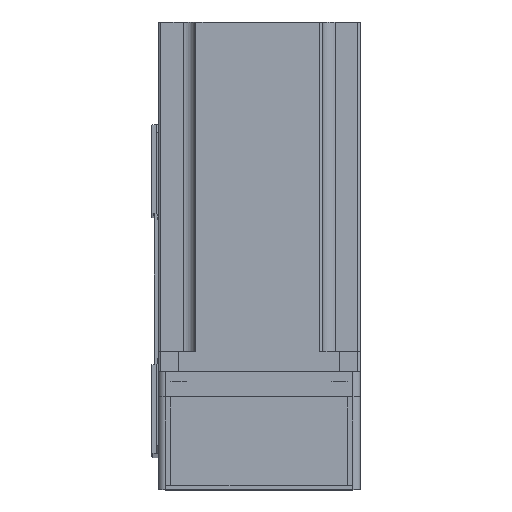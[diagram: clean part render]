
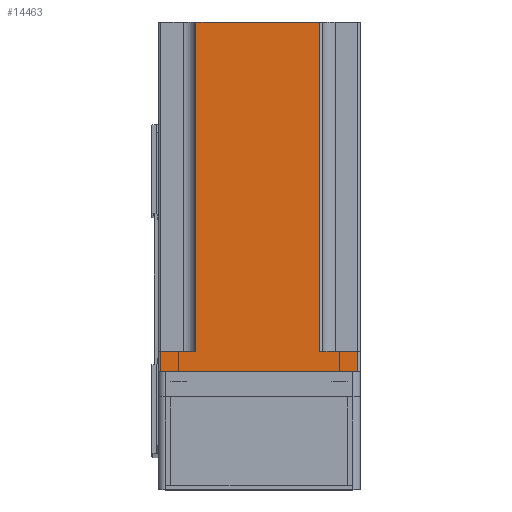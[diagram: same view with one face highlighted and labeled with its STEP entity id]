
A CAD part, top view. The second image highlights one B-rep face of the part: STEP entity #14463.
In plain terms, the highlighted planar face has unit normal (0, 0, 1) as drawn and (-1, 0, 0) by its records, which use the part's own axes.
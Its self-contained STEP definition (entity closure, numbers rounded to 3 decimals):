
#366 = CARTESIAN_POINT ( 'NONE',  ( -40., -39., 8. ) ) ;
#1369 = EDGE_CURVE ( 'NONE', #42244, #22218, #40929, .T. ) ;
#1792 = DIRECTION ( 'NONE',  ( 0., -1., 0. ) ) ;
#1962 = LINE ( 'NONE', #42863, #18874 ) ;
#2113 = DIRECTION ( 'NONE',  ( 0., -1., 0. ) ) ;
#2497 = DIRECTION ( 'NONE',  ( 0., 0., 1. ) ) ;
#3244 = EDGE_LOOP ( 'NONE', ( #18617, #25993, #48283, #39587, #11642, #5808, #7015, #12656 ) ) ;
#4318 = VECTOR ( 'NONE', #8332, 1000. ) ;
#4391 = VERTEX_POINT ( 'NONE', #33531 ) ;
#5808 = ORIENTED_EDGE ( 'NONE', *, *, #29301, .T. ) ;
#5882 = LINE ( 'NONE', #14709, #45887 ) ;
#7015 = ORIENTED_EDGE ( 'NONE', *, *, #1369, .T. ) ;
#7234 = LINE ( 'NONE', #25920, #35697 ) ;
#8332 = DIRECTION ( 'NONE',  ( 0., 0., -1. ) ) ;
#9759 = DIRECTION ( 'NONE',  ( 0., -1., 0. ) ) ;
#10126 = DIRECTION ( 'NONE',  ( 1., 0., 0. ) ) ;
#10890 = VERTEX_POINT ( 'NONE', #26378 ) ;
#11642 = ORIENTED_EDGE ( 'NONE', *, *, #39262, .T. ) ;
#12656 = ORIENTED_EDGE ( 'NONE', *, *, #46635, .T. ) ;
#14463 = ADVANCED_FACE ( 'NONE', ( #46347 ), #40953, .F. ) ;
#14619 = LINE ( 'NONE', #38821, #4318 ) ;
#14709 = CARTESIAN_POINT ( 'NONE',  ( -40., 40., 8. ) ) ;
#16751 = EDGE_CURVE ( 'NONE', #49992, #16791, #7234, .T. ) ;
#16791 = VERTEX_POINT ( 'NONE', #26091 ) ;
#18617 = ORIENTED_EDGE ( 'NONE', *, *, #22308, .F. ) ;
#18874 = VECTOR ( 'NONE', #35050, 1000. ) ;
#19162 = AXIS2_PLACEMENT_3D ( 'NONE', #33274, #10126, #37179 ) ;
#22218 = VERTEX_POINT ( 'NONE', #24950 ) ;
#22308 = EDGE_CURVE ( 'NONE', #40290, #27152, #44125, .T. ) ;
#24950 = CARTESIAN_POINT ( 'NONE',  ( -40., -39., 0. ) ) ;
#24982 = CARTESIAN_POINT ( 'NONE',  ( -40., -40., 0. ) ) ;
#25920 = CARTESIAN_POINT ( 'NONE',  ( -40., 25., 8. ) ) ;
#25993 = ORIENTED_EDGE ( 'NONE', *, *, #44623, .T. ) ;
#26091 = CARTESIAN_POINT ( 'NONE',  ( -40., 25., 138.3 ) ) ;
#26378 = CARTESIAN_POINT ( 'NONE',  ( -40., 39., 8. ) ) ;
#27152 = VERTEX_POINT ( 'NONE', #366 ) ;
#29033 = CARTESIAN_POINT ( 'NONE',  ( -40., -40., 8. ) ) ;
#29301 = EDGE_CURVE ( 'NONE', #10890, #42244, #14619, .T. ) ;
#29576 = CARTESIAN_POINT ( 'NONE',  ( -40., -39., 138.3 ) ) ;
#29799 = DIRECTION ( 'NONE',  ( 0., 0., 1. ) ) ;
#30527 = VECTOR ( 'NONE', #1792, 1000. ) ;
#31924 = LINE ( 'NONE', #29576, #42277 ) ;
#33274 = CARTESIAN_POINT ( 'NONE',  ( -40., -40., 138.3 ) ) ;
#33531 = CARTESIAN_POINT ( 'NONE',  ( -40., -24., 138.3 ) ) ;
#33745 = VECTOR ( 'NONE', #2113, 1000. ) ;
#34045 = CARTESIAN_POINT ( 'NONE',  ( -40., 39., 0. ) ) ;
#35050 = DIRECTION ( 'NONE',  ( 0., 0., 1. ) ) ;
#35697 = VECTOR ( 'NONE', #29799, 1000. ) ;
#36095 = VECTOR ( 'NONE', #9759, 1000. ) ;
#36819 = CARTESIAN_POINT ( 'NONE',  ( -40., -40., 138.3 ) ) ;
#37179 = DIRECTION ( 'NONE',  ( 0., 0., -1. ) ) ;
#37327 = LINE ( 'NONE', #36819, #36095 ) ;
#38821 = CARTESIAN_POINT ( 'NONE',  ( -40., 39., 138.3 ) ) ;
#39262 = EDGE_CURVE ( 'NONE', #49992, #10890, #5882, .T. ) ;
#39587 = ORIENTED_EDGE ( 'NONE', *, *, #16751, .F. ) ;
#40290 = VERTEX_POINT ( 'NONE', #45962 ) ;
#40929 = LINE ( 'NONE', #24982, #30527 ) ;
#40953 = PLANE ( 'NONE',  #19162 ) ;
#41859 = DIRECTION ( 'NONE',  ( 0., 1., 0. ) ) ;
#42244 = VERTEX_POINT ( 'NONE', #34045 ) ;
#42277 = VECTOR ( 'NONE', #2497, 1000. ) ;
#42863 = CARTESIAN_POINT ( 'NONE',  ( -40., -24., 138.3 ) ) ;
#44125 = LINE ( 'NONE', #29033, #33745 ) ;
#44623 = EDGE_CURVE ( 'NONE', #40290, #4391, #1962, .T. ) ;
#45887 = VECTOR ( 'NONE', #41859, 1000. ) ;
#45962 = CARTESIAN_POINT ( 'NONE',  ( -40., -24., 8. ) ) ;
#46347 = FACE_OUTER_BOUND ( 'NONE', #3244, .T. ) ;
#46635 = EDGE_CURVE ( 'NONE', #22218, #27152, #31924, .T. ) ;
#47807 = CARTESIAN_POINT ( 'NONE',  ( -40., 25., 8. ) ) ;
#47842 = EDGE_CURVE ( 'NONE', #16791, #4391, #37327, .T. ) ;
#48283 = ORIENTED_EDGE ( 'NONE', *, *, #47842, .F. ) ;
#49992 = VERTEX_POINT ( 'NONE', #47807 ) ;
